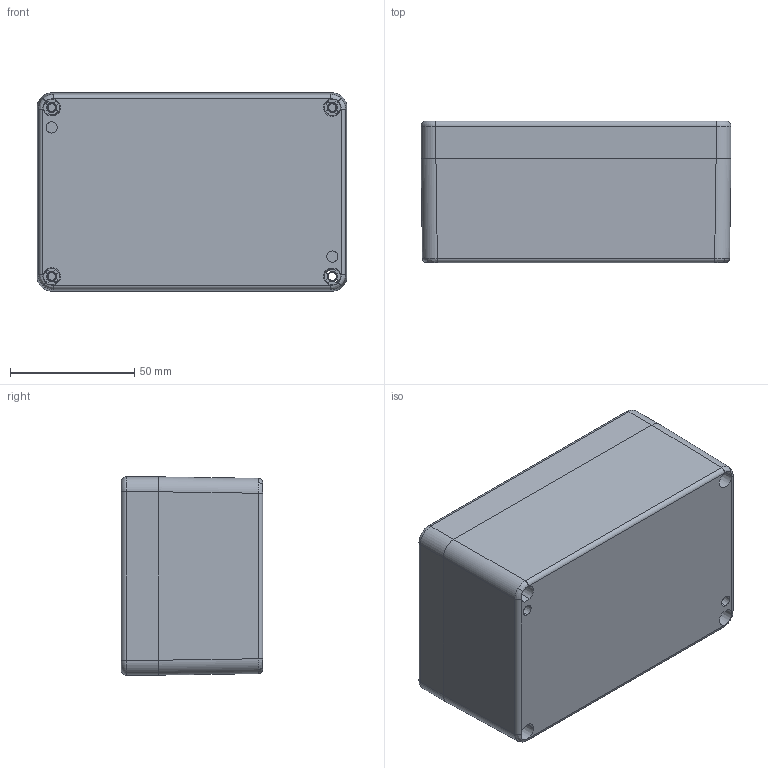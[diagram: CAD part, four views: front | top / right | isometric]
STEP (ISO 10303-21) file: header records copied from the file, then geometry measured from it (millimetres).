
FILE_DESCRIPTION((''),'2;1');
FILE_NAME('1160000000_ASM','2022-07-21T12:37:42',('silke.otte'),(''),'CREO PARAMETRIC BY PTC INC, 2018300','CREO PARAMETRIC BY PTC INC, 2018300','');
FILE_SCHEMA(('AUTOMOTIVE_DESIGN { 1 0 10303 214 1 1 1 1 }'));
Length unit declared in the file: millimetre
Products named in the file (11): 9301006000_AF0; 9261104000; 9601117000_ASM; 9601552000_ASM; 9302006000_AF0; 9261116000; 9611135000_ASM; 9611310000_DICHTUNG; 9611310000_ASM; 9261013000; 1160000000_ASM
Assembly tree (14 placements, depth 4):
  1160000000_ASM
    9601552000_ASM
      9601117000_ASM
        9301006000_AF0
        9261104000  x2
    9611310000_ASM
      9611135000_ASM
        9302006000_AF0
        9261116000
      9611310000_DICHTUNG
    9261013000  x4
Bounding box: 124.85 x 57 x 79.85 mm (x, y, z)
Volume: 151799.7 mm3; surface area: 97479.3 mm2
Topology: 13 solids, 27 shells, 1194 faces, 3079 edges, 1937 vertices
Faces by surface type: plane 522, cylinder 335, cone 178, torus 106, bspline 44, sphere 9
Entity records: 51177 total; most frequent: CARTESIAN_POINT 17191, DIRECTION 4801, ORIENTED_EDGE 4682, PRESENTATION_STYLE_ASSIGNMENT 2376, STYLED_ITEM 2371, EDGE_CURVE 2361, CURVE_STYLE 2356, AXIS2_PLACEMENT_3D 1847
